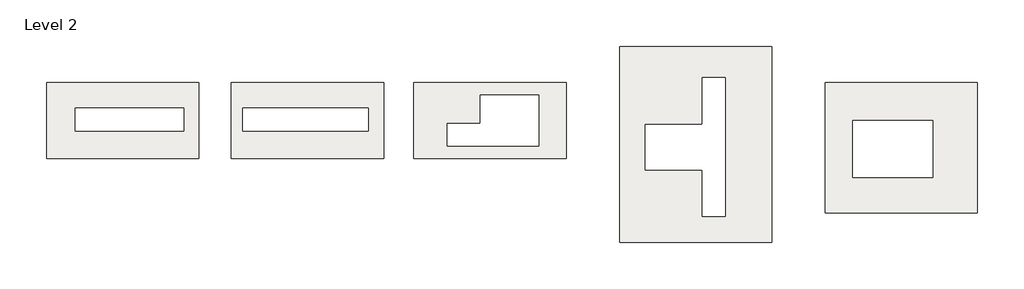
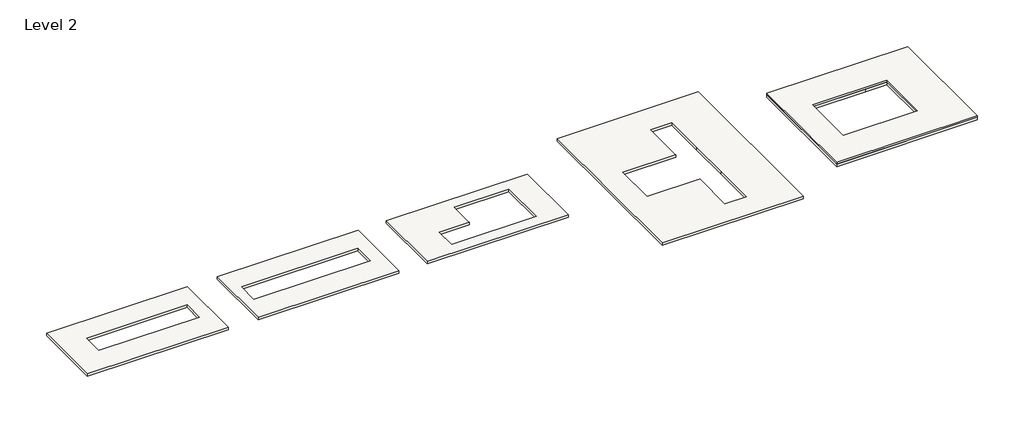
# One storey: 6 slabs.
"""IFC4 building model written with IfcOpenShell, lengths in millimetres."""

from ifc_helpers import new_model, si_unit, frame, origin, place, context, project, spatial, polyline, outline, extrude, element, save

model = new_model("IFC4")

# Units and contexts
model_context = context("Model", 3, world=origin())
ifc_project = project(units=[si_unit("LENGTHUNIT", "METRE", prefix="MILLI")], contexts=[model_context])

# Site, building, storey
site = spatial("IfcSite", under=ifc_project)
building = spatial("IfcBuilding", under=site)
storey = spatial("IfcBuildingStorey", under=building, Name="Level 2", Elevation=3000.0)

# Slabs
placement = place(None, origin())
element("IfcSlab", 1, ObjectType="Floor Ceramic", at=placement, inside=storey, context=model_context, shape_type="SweptSolid", body=[
    extrude(outline(polyline([(30064.825027, 17945.8514829), (30064.825027, 11098.1620551), (22064.825027, 11098.1620551), (22064.825027, 17945.8514829), (30064.825027, 17945.8514829)]), holes=[polyline([(27717.0058959, 15949.8804966), (23517.0058959, 15949.8804966), (23517.0058959, 12949.8804966), (27717.0058959, 12949.8804966), (27717.0058959, 15949.8804966)])]), frame((0.0, 0.0, 3000.0), z_axis=(0.0, 0.0, 1.0), x_axis=(1.0, 0.0, 0.0)), (0.0, 0.0, 1.0), 100.0),
])
element("IfcSlab", 2, ObjectType="Generic 150mm", at=placement, inside=storey, context=model_context, shape_type="SweptSolid", body=[
    extrude(outline(polyline([(-10835.174973, 17945.8514829), (-10835.174973, 13945.8514829), (-18835.174973, 13945.8514829), (-18835.174973, 17945.8514829), (-10835.174973, 17945.8514829)]), holes=[polyline([(-11630.6130936, 16605.2395312), (-17330.6130936, 16605.2395312), (-17330.6130936, 15405.2395312), (-11630.6130936, 15405.2395312), (-11630.6130936, 16605.2395312)])]), frame((0.0, 0.0, 2850.0), z_axis=(0.0, 0.0, 1.0), x_axis=(1.0, 0.0, 0.0)), (0.0, 0.0, 1.0), 150.0),
])
element("IfcSlab", 3, ObjectType="Generic 150mm", at=placement, inside=storey, context=model_context, shape_type="SweptSolid", body=[
    extrude(outline(polyline([(-1135.174973, 17945.8514829), (-1135.174973, 13945.8514829), (-9135.174973, 13945.8514829), (-9135.174973, 17945.8514829), (-1135.174973, 17945.8514829)]), holes=[polyline([(-1936.2392988, 16605.2395312), (-8536.2392988, 16605.2395312), (-8536.2392988, 15405.2395312), (-1936.2392988, 15405.2395312), (-1936.2392988, 16605.2395312)])]), frame((0.0, 0.0, 2850.0), z_axis=(0.0, 0.0, 1.0), x_axis=(1.0, 0.0, 0.0)), (0.0, 0.0, 1.0), 150.0),
])
element("IfcSlab", 4, ObjectType="Generic 150mm", at=placement, inside=storey, context=model_context, shape_type="SweptSolid", body=[
    extrude(outline(polyline([(30064.825027, 17945.8514829), (30064.825027, 11098.1620551), (22064.825027, 11098.1620551), (22064.825027, 17945.8514829), (30064.825027, 17945.8514829)]), holes=[polyline([(26517.0058959, 12949.8804966), (27717.0058959, 12949.8804966), (27717.0058959, 15949.8804966), (26517.0058959, 15949.8804966), (23517.0058959, 15949.8804966), (23517.0058959, 12949.8804966), (26517.0058959, 12949.8804966)])]), frame((0.0, 0.0, 2850.0), z_axis=(0.0, 0.0, 1.0), x_axis=(1.0, 0.0, 0.0)), (0.0, 0.0, 1.0), 150.0),
])
element("IfcSlab", 5, ObjectType="Generic 150mm", at=placement, inside=storey, context=model_context, shape_type="SweptSolid", body=[
    extrude(outline(polyline([(19264.825027, 19847.6338649), (19264.825027, 9547.6338649), (11264.825027, 9547.6338649), (11264.825027, 19847.6338649), (19264.825027, 19847.6338649)]), holes=[polyline([(15612.0930035, 15747.6338649), (12612.0930035, 15747.6338649), (12612.0930035, 13347.6338649), (15612.0930035, 13347.6338649), (15612.0930035, 10897.6338649), (16812.0930035, 10897.6338649), (16812.0930035, 13347.6338649), (16812.0930035, 15747.6338649), (16812.0930035, 18197.6338649), (15612.0930035, 18197.6338649), (15612.0930035, 15747.6338649)])]), frame((0.0, 0.0, 2850.0), z_axis=(0.0, 0.0, 1.0), x_axis=(1.0, 0.0, 0.0)), (0.0, 0.0, 1.0), 150.0),
])
element("IfcSlab", 6, ObjectType="Generic 150mm", at=placement, inside=storey, context=model_context, shape_type="SweptSolid", body=[
    extrude(outline(polyline([(8464.825027, 17945.8514829), (8464.825027, 13945.8514829), (464.825027, 13945.8514829), (464.825027, 17945.8514829), (8464.825027, 17945.8514829)]), holes=[polyline([(3936.3741396, 17298.1620551), (3936.3741396, 15798.1620551), (2226.3741396, 15798.1620551), (2226.3741396, 14598.1620551), (7025.9741396, 14598.1620551), (7025.9741396, 17298.1620551), (3936.3741396, 17298.1620551)])]), frame((0.0, 0.0, 2850.0), z_axis=(0.0, 0.0, 1.0), x_axis=(1.0, 0.0, 0.0)), (0.0, 0.0, 1.0), 150.0),
])

save(model, "model.ifc")
